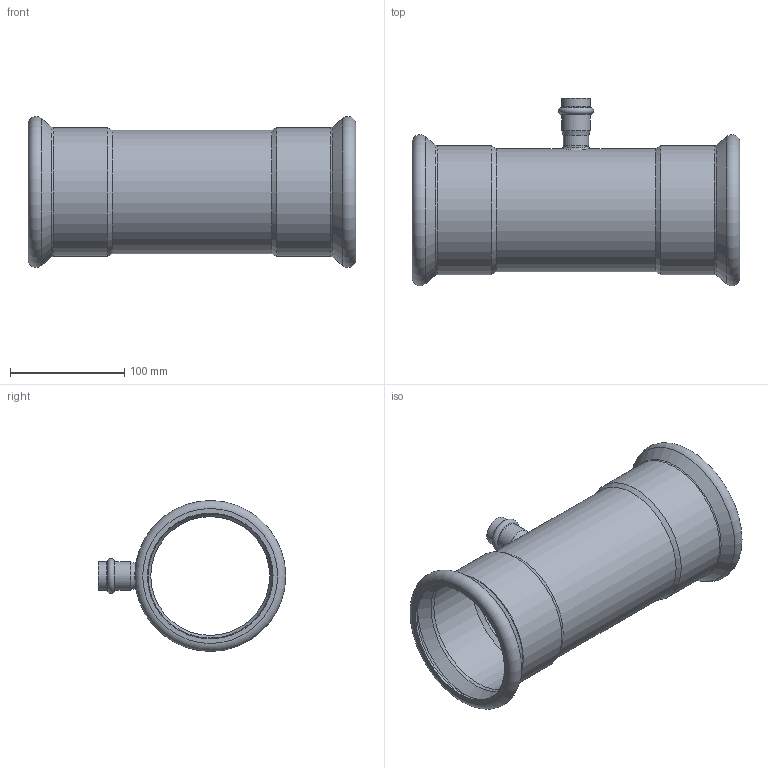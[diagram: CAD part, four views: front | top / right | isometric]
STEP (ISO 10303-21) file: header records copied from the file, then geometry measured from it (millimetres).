
FILE_DESCRIPTION((''),'2;1');
FILE_NAME('G:\Nirosan-Schmiedefeld\Technics\CAD\Bauteile VA\108\6913010822108(1).stp','2009-05-08T09:41:43',('herberg'),(''),'Autodesk Inventor 2009','Autodesk Inventor 2009','');
FILE_SCHEMA(('AUTOMOTIVE_DESIGN { 1 0 10303 214 1 1 1 1 }'));
Length unit declared in the file: millimetre
Products named in the file (3): 6913010822108(1); LM_6913010822108(0); 6924322HM(1)
Assembly tree (2 placements, depth 2):
  6913010822108(1)
    LM_6913010822108(0)
    6924322HM(1)
Bounding box: 287 x 164.1 x 132.2 mm (x, y, z)
Volume: 218874.4 mm3; surface area: 222201.4 mm2
Topology: 2 solids, 2 shells, 51 faces, 103 edges, 58 vertices
Faces by surface type: cylinder 16, cone 12, bspline 9, plane 7, torus 7
Full cylindrical faces by diameter (mm): 18 x1, 19 x1, 22 x2, 22.15 x2, 25.15 x2, 104 x1, 108 x1, 108.7 x2, 110 x2, 112.7 x2
Entity records: 2894 total; most frequent: CARTESIAN_POINT 1958, DIRECTION 192, ORIENTED_EDGE 108, EDGE_LOOP 102, AXIS2_PLACEMENT_3D 96, EDGE_CURVE 54, VERTEX_POINT 52, FACE_OUTER_BOUND 51
